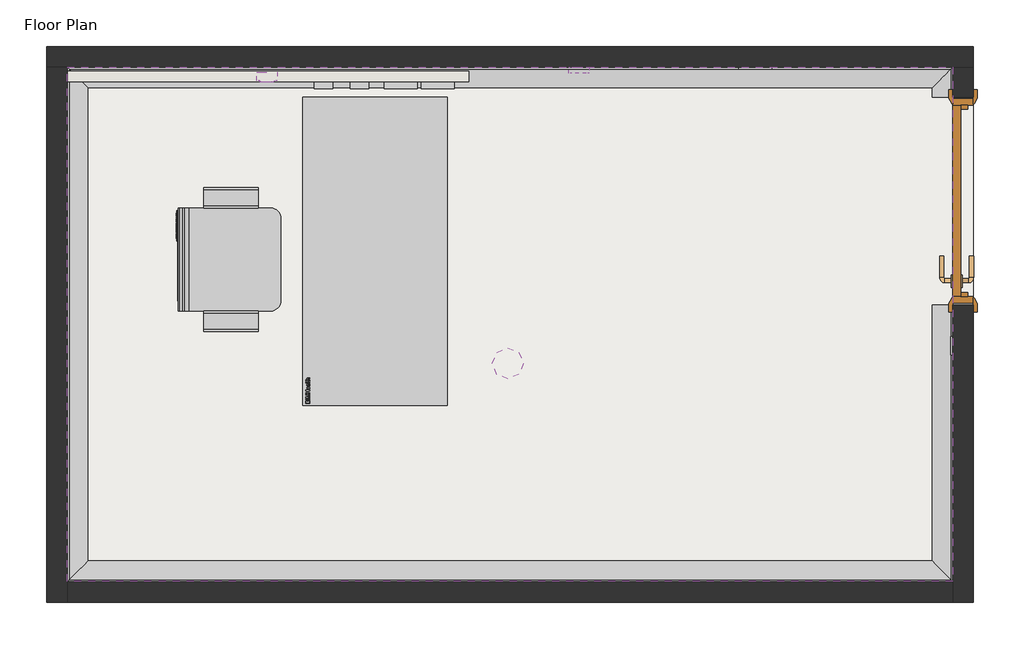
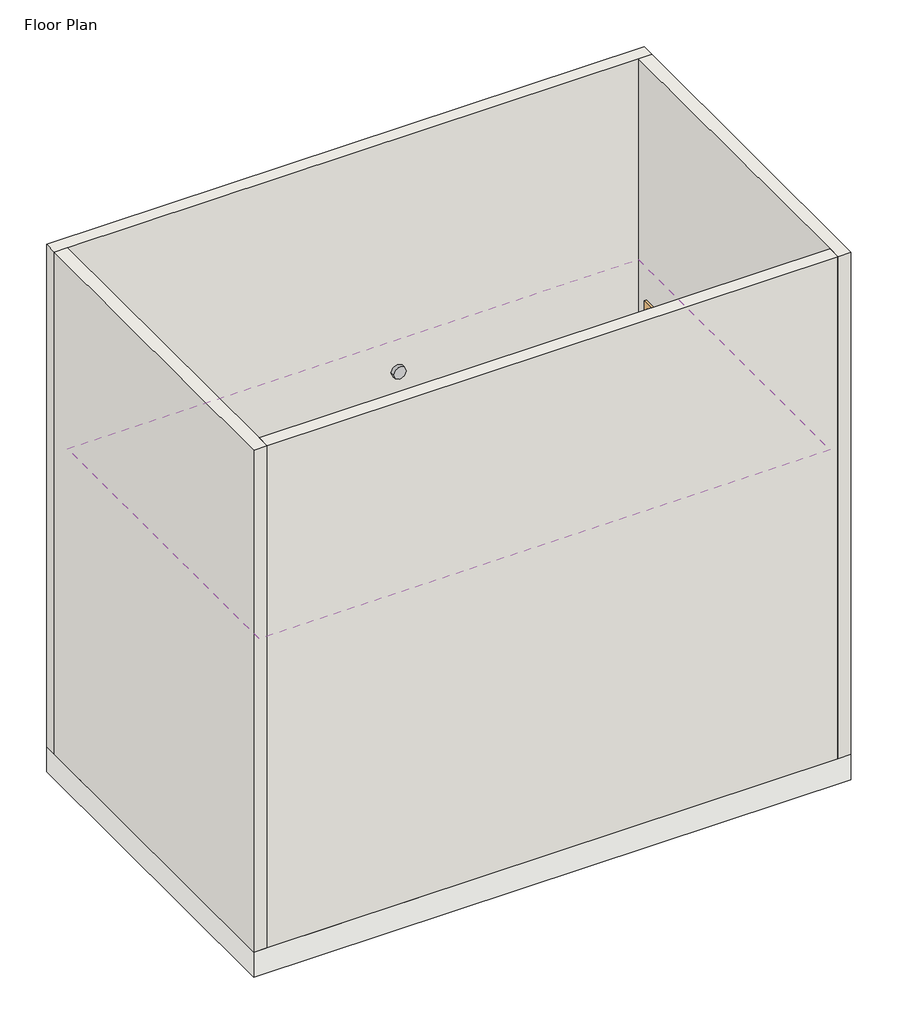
# One storey: 13 proxies, 5 walls, 2 furniture elements, 1 covering, 1 door, 1 slab.
"""IFC4 building model written with IfcOpenShell, lengths in millimetres."""

from ifc_helpers import new_model, si_unit, frame, origin, origin_with_axes, place, context, project, spatial, polyline, circle_curve, ellipse_curve, outline, extrude, faceted_brep, transform, mapped, element, save
from ifc_brep_helpers import plane_surface, revolved_surface, advanced_brep
from components import bimhealth_electrical_data_point_v1_type_1_559430e2, bimhealth_electrical_double_socket_v1_type_1_a33e6646, bimhealth_electrical_double_socket_v1_type_1_f9b83866, bimhealth_electrical_light_switch_v1_type_1_b5e59f8a, bimhealth_electrical_panic_alarm_v1_type_1_f5d69f13, bimhealth_electrical_smoke_detector_v1_bimhealth_electrical_fe9fcb6c, type_1_6de7a62d, door_1010x2110mm_f9eb5fde, furniture_fb8e9059, furniture_9261fd45

model = new_model("IFC4")

# Units and contexts
model_context = context("Model", 3, world=origin())
ifc_project = project(units=[si_unit("LENGTHUNIT", "METRE", prefix="MILLI")], contexts=[model_context])

# Site, building, storey
site = spatial("IfcSite", under=ifc_project)
building = spatial("IfcBuilding", under=site)
storey = spatial("IfcBuildingStorey", under=building, Name="Floor Plan", Elevation=0.0)

# Proxies
placement = place(None, origin())
element("IfcBuildingElementProxy", 1, Name="Wall Sweeps", at=placement, inside=storey, context=model_context, shape_type="AdvancedBrep", body=[
    advanced_brep(
    [(5.0, 695.0, 0.0), (105.0, 795.0, 0.0), (105.0, 795.0, 10.0), (15.0, 705.0, 100.0), (5.0, 695.0, 100.0), (5.0, 3195.0, 0.0), (5.0, 3195.0, 100.0), (15.0, 3185.0, 100.0), (105.0, 3095.0, 10.0), (105.0, 3095.0, 0.0)],
    [
        (0, 1),
        (1, 2),
        (2, 3, ellipse_curve(frame((105.0, 795.0, 100.0), z_axis=(-0.707106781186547, 0.707106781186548, 0.0), x_axis=(0.707106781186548, 0.7071067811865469, 0.0)), 127.2792206, 90.0)),
        (3, 4),
        (4, 0),
        (5, 6),
        (6, 7),
        (7, 8, ellipse_curve(frame((105.0, 3095.0, 100.0), z_axis=(-0.7071067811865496, -0.7071067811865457, 0.0), x_axis=(-0.7071067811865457, 0.7071067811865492, 0.0)), 127.2792206, 90.0)),
        (8, 9),
        (9, 5),
        (4, 6),
        (5, 0),
        (3, 7),
        (2, 8),
        (1, 9),
    ],
    [
        plane_surface(frame((5.0, 695.0, 304.8), z_axis=(0.707106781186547, -0.707106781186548, 0.0), x_axis=(0.707106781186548, 0.707106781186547, 0.0))),
        plane_surface(frame((5.0, 3195.0, 304.8), z_axis=(0.7071067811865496, 0.7071067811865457, 0.0), x_axis=(0.7071067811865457, -0.7071067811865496, 0.0))),
        plane_surface(frame((5.0, 695.0, 100.0), z_axis=(-1.0, 0.0, 0.0), x_axis=(0.0, 1.0, 0.0))),
        plane_surface(frame((15.0, 705.0, 100.0), z_axis=(0.0, 0.0, 1.0), x_axis=(0.0, 1.0, 0.0))),
        revolved_surface(polyline([(195.0, 3185.0, 100.0), (195.0, 705.0, 100.0)]), (105.0, 695.0, 100.0), (0.0, 1.0, 0.0)),
        plane_surface(frame((105.0, 795.0, 0.0), z_axis=(1.0, 0.0, 0.0), x_axis=(0.0, 1.0, 0.0))),
        plane_surface(frame((5.0, 695.0, 0.0), z_axis=(0.0, 0.0, -1.0), x_axis=(0.0, 1.0, 0.0))),
    ],
    [
        (0, [[1, 2, 3, 4, 5]]),
        (1, [[6, 7, 8, 9, 10]]),
        (2, [[-5, 11, -6, 12]]),
        (3, [[-4, 13, -7, -11]]),
        (4, [[-3, 14, -8, -13]]),
        (5, [[-2, 15, -9, -14]]),
        (6, [[-1, -12, -10, -15]]),
    ],
),
])
element("IfcBuildingElementProxy", 2, Name="Wall Sweeps", at=placement, inside=storey, context=model_context, shape_type="AdvancedBrep", body=[
    advanced_brep(
    [(5.0, 3195.0, 0.0), (105.0, 3095.0, 0.0), (105.0, 3095.0, 10.0), (15.0, 3185.0, 100.0), (5.0, 3195.0, 100.0), (4305.0, 3195.0, 0.0), (4305.0, 3195.0, 100.0), (4295.0, 3185.0, 100.0), (4205.0, 3095.0, 10.0), (4205.0, 3095.0, 0.0)],
    [
        (0, 1),
        (1, 2),
        (2, 3, ellipse_curve(frame((105.0, 3095.0, 100.0), z_axis=(0.7071067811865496, 0.7071067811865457, 0.0), x_axis=(0.7071067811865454, -0.7071067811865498, 0.0)), 127.2792206, 90.0)),
        (3, 4),
        (4, 0),
        (5, 6),
        (6, 7),
        (7, 8, ellipse_curve(frame((4205.0, 3095.0, 100.0), z_axis=(-0.7071067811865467, 0.7071067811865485, 0.0), x_axis=(0.7071067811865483, 0.7071067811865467, 0.0)), 127.2792206, 90.0)),
        (8, 9),
        (9, 5),
        (4, 6),
        (5, 0),
        (3, 7),
        (2, 8),
        (1, 9),
    ],
    [
        plane_surface(frame((5.0, 3195.0, 304.8), z_axis=(-0.7071067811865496, -0.7071067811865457, 0.0), x_axis=(0.7071067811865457, -0.7071067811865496, 0.0))),
        plane_surface(frame((4305.0, 3195.0, 304.8), z_axis=(0.7071067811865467, -0.7071067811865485, 0.0), x_axis=(-0.7071067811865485, -0.7071067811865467, 0.0))),
        plane_surface(frame((5.0, 3195.0, 100.0), z_axis=(0.0, 1.0, 0.0), x_axis=(1.0, 0.0, 0.0))),
        plane_surface(frame((15.0, 3185.0, 100.0), z_axis=(0.0, 0.0, 1.0), x_axis=(1.0, 0.0, 0.0))),
        revolved_surface(polyline([(4295.0, 3005.0, 100.0), (15.0, 3005.0, 100.0)]), (5.0, 3095.0, 100.0), (1.0, 0.0, 0.0)),
        plane_surface(frame((105.0, 3095.0, 0.0), z_axis=(0.0, -1.0, 0.0), x_axis=(1.0, 0.0, 0.0))),
        plane_surface(frame((5.0, 3195.0, 0.0), z_axis=(0.0, 0.0, -1.0), x_axis=(1.0, 0.0, 0.0))),
    ],
    [
        (0, [[1, 2, 3, 4, 5]]),
        (1, [[6, 7, 8, 9, 10]]),
        (2, [[-5, 11, -6, 12]]),
        (3, [[-4, 13, -7, -11]]),
        (4, [[-3, 14, -8, -13]]),
        (5, [[-2, 15, -9, -14]]),
        (6, [[-1, -12, -10, -15]]),
    ],
),
])
element("IfcBuildingElementProxy", 3, Name="Wall Sweeps", at=placement, inside=storey, context=model_context, shape_type="AdvancedBrep", body=[
    advanced_brep(
    [(4305.0, 2040.0, 0.0), (4205.0, 2040.0, 0.0), (4205.0, 2040.0, 10.0), (4295.0, 2040.0, 100.0), (4305.0, 2040.0, 100.0), (4305.0, 695.0, 0.0), (4305.0, 695.0, 100.0), (4295.0, 705.0, 100.0), (4205.0, 795.0, 10.0), (4205.0, 795.0, 0.0)],
    [
        (0, 1),
        (1, 2),
        (2, 3, circle_curve(frame((4205.0, 2040.0, 100.0), z_axis=(0.0, -1.0, 0.0), x_axis=(-1.0, 0.0, 0.0)), 90.0)),
        (3, 4),
        (4, 0),
        (5, 6),
        (6, 7),
        (7, 8, ellipse_curve(frame((4205.0, 795.0, 100.0), z_axis=(0.7071067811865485, 0.7071067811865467, 0.0), x_axis=(0.7071067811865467, -0.7071067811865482, 0.0)), 127.2792206, 90.0)),
        (8, 9),
        (9, 5),
        (4, 6),
        (5, 0),
        (3, 7),
        (2, 8),
        (1, 9),
    ],
    [
        plane_surface(frame((4204.5012438, 2040.0, 0.0), z_axis=(0.0, 1.0, 0.0), x_axis=(0.0, 0.0, -1.0))),
        plane_surface(frame((4305.0, 695.0, 304.8), z_axis=(-0.7071067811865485, -0.7071067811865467, 0.0), x_axis=(-0.7071067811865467, 0.7071067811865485, 0.0))),
        plane_surface(frame((4305.0, 2040.0, 100.0), z_axis=(1.0, 0.0, 0.0), x_axis=(0.0, -1.0, 0.0))),
        plane_surface(frame((4295.0, 2040.0, 100.0), z_axis=(0.0, 0.0, 1.0), x_axis=(0.0, -1.0, 0.0))),
        revolved_surface(polyline([(4115.0, 705.0, 100.0), (4115.0, 2040.0, 100.0)]), (4205.0, 2040.0, 100.0), (0.0, -1.0, 0.0)),
        plane_surface(frame((4205.0, 2040.0, 0.0), z_axis=(-1.0, 0.0, 0.0), x_axis=(0.0, -1.0, 0.0))),
        plane_surface(frame((4305.0, 2040.0, 0.0), z_axis=(0.0, 0.0, -1.0), x_axis=(0.0, -1.0, 0.0))),
    ],
    [
        (0, [[1, 2, 3, 4, 5]]),
        (1, [[6, 7, 8, 9, 10]]),
        (2, [[-5, 11, -6, 12]]),
        (3, [[-4, 13, -7, -11]]),
        (4, [[-3, 14, -8, -13]]),
        (5, [[-2, 15, -9, -14]]),
        (6, [[-1, -12, -10, -15]]),
    ],
),
    advanced_brep(
    [(4305.0, 3195.0, 0.0), (4205.0, 3095.0, 0.0), (4205.0, 3095.0, 10.0), (4295.0, 3185.0, 100.0), (4305.0, 3195.0, 100.0), (4305.0, 3050.0, 0.0), (4305.0, 3050.0, 100.0), (4295.0, 3050.0, 100.0), (4205.0, 3050.0, 10.0), (4205.0, 3050.0, 0.0)],
    [
        (0, 1),
        (1, 2),
        (2, 3, ellipse_curve(frame((4205.0, 3095.0, 100.0), z_axis=(0.7071067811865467, -0.7071067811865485, 0.0), x_axis=(-0.7071067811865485, -0.7071067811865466, 0.0)), 127.2792206, 90.0)),
        (3, 4),
        (4, 0),
        (5, 6),
        (6, 7),
        (7, 8, circle_curve(frame((4205.0, 3050.0, 100.0), z_axis=(0.0, 1.0, 0.0), x_axis=(-1.0, 0.0, 0.0)), 90.0)),
        (8, 9),
        (9, 5),
        (4, 6),
        (5, 0),
        (3, 7),
        (2, 8),
        (1, 9),
    ],
    [
        plane_surface(frame((4305.0, 3195.0, 304.8), z_axis=(-0.7071067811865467, 0.7071067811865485, 0.0), x_axis=(-0.7071067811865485, -0.7071067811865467, 0.0))),
        plane_surface(frame((4204.5012438, 3050.0, 0.0), z_axis=(0.0, -1.0, 0.0), x_axis=(0.0, 0.0, -1.0))),
        plane_surface(frame((4305.0, 3195.0, 100.0), z_axis=(1.0, 0.0, 0.0), x_axis=(0.0, -1.0, 0.0))),
        plane_surface(frame((4295.0, 3185.0, 100.0), z_axis=(0.0, 0.0, 1.0), x_axis=(0.0, -1.0, 0.0))),
        revolved_surface(polyline([(4115.0, 3005.0000000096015, 100.0), (4115.0, 3185.0, 100.0)]), (4205.0, 3195.0, 100.0), (0.0, -1.0, 0.0)),
        plane_surface(frame((4205.0, 3095.0, 0.0), z_axis=(-1.0, 0.0, 0.0), x_axis=(0.0, -1.0, 0.0))),
        plane_surface(frame((4305.0, 3195.0, 0.0), z_axis=(0.0, 0.0, -1.0), x_axis=(0.0, -1.0, 0.0))),
    ],
    [
        (0, [[1, 2, 3, 4, 5]]),
        (1, [[6, 7, 8, 9, 10]]),
        (2, [[-5, 11, -6, 12]]),
        (3, [[-4, 13, -7, -11]]),
        (4, [[-3, 14, -8, -13]]),
        (5, [[-2, 15, -9, -14]]),
        (6, [[-1, -12, -10, -15]]),
    ],
),
])
element("IfcBuildingElementProxy", 4, Name="Wall Sweeps", at=placement, inside=storey, context=model_context, shape_type="AdvancedBrep", body=[
    advanced_brep(
    [(4305.0, 695.0, 0.0), (4205.0, 795.0, 0.0), (4205.0, 795.0, 10.0), (4295.0, 705.0, 100.0), (4305.0, 695.0, 100.0), (5.0, 695.0, 0.0), (5.0, 695.0, 100.0), (15.0, 705.0, 100.0), (105.0, 795.0, 10.0), (105.0, 795.0, 0.0)],
    [
        (0, 1),
        (1, 2),
        (2, 3, ellipse_curve(frame((4205.0, 795.0, 100.0), z_axis=(-0.7071067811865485, -0.7071067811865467, 0.0), x_axis=(-0.7071067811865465, 0.7071067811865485, 0.0)), 127.2792206, 90.0)),
        (3, 4),
        (4, 0),
        (5, 6),
        (6, 7),
        (7, 8, ellipse_curve(frame((105.0, 795.0, 100.0), z_axis=(0.707106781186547, -0.707106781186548, 0.0), x_axis=(-0.7071067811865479, -0.707106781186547, 0.0)), 127.2792206, 90.0)),
        (8, 9),
        (9, 5),
        (4, 6),
        (5, 0),
        (3, 7),
        (2, 8),
        (1, 9),
    ],
    [
        plane_surface(frame((4305.0, 695.0, 304.8), z_axis=(0.7071067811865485, 0.7071067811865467, 0.0), x_axis=(-0.7071067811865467, 0.7071067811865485, 0.0))),
        plane_surface(frame((5.0, 695.0, 304.8), z_axis=(-0.707106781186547, 0.707106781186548, 0.0), x_axis=(0.707106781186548, 0.707106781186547, 0.0))),
        plane_surface(frame((4305.0, 695.0, 100.0), z_axis=(0.0, -1.0, 0.0), x_axis=(-1.0, 0.0, 0.0))),
        plane_surface(frame((4295.0, 705.0, 100.0), z_axis=(0.0, 0.0, 1.0), x_axis=(-1.0, 0.0, 0.0))),
        revolved_surface(polyline([(15.0, 885.0, 100.0), (4295.0, 885.0, 100.0)]), (4305.0, 795.0, 100.0), (-1.0, 0.0, 0.0)),
        plane_surface(frame((4205.0, 795.0, 0.0), z_axis=(0.0, 1.0, 0.0), x_axis=(-1.0, 0.0, 0.0))),
        plane_surface(frame((4305.0, 695.0, 0.0), z_axis=(0.0, 0.0, -1.0), x_axis=(-1.0, 0.0, 0.0))),
    ],
    [
        (0, [[1, 2, 3, 4, 5]]),
        (1, [[6, 7, 8, 9, 10]]),
        (2, [[-5, 11, -6, 12]]),
        (3, [[-4, 13, -7, -11]]),
        (4, [[-3, 14, -8, -13]]),
        (5, [[-2, 15, -9, -14]]),
        (6, [[-1, -12, -10, -15]]),
    ],
),
])
bimhealth_electrical_data_point_v1_type_1_shape = bimhealth_electrical_data_point_v1_type_1_559430e2(model_context)
element("IfcBuildingElementProxy", 5, Name="BIMHealth-Electrical-Data_Point-v1 : Type 1", ObjectType="BIMHealth-Electrical-Data_Point-v1 : Type 1", at=placement, inside=storey, context=model_context, shape_type="MappedRepresentation", body=[
    mapped(bimhealth_electrical_data_point_v1_type_1_shape, transform((1420.0, 3150.0, -15.0), x_axis=(-1.0, 0.0, 0.0), y_axis=(0.0, -1.0, 0.0), z_axis=(0.0, 0.0, 1.0))),
])
bimhealth_electrical_double_socket_v1_type_1_shape = bimhealth_electrical_double_socket_v1_type_1_a33e6646(model_context)
element("IfcBuildingElementProxy", 6, Name="BIMHealth-Electrical-Double_Socket-v1 : Type 1", ObjectType="BIMHealth-Electrical-Double_Socket-v1 : Type 1", at=placement, inside=storey, context=model_context, shape_type="MappedRepresentation", body=[
    mapped(bimhealth_electrical_double_socket_v1_type_1_shape, transform((2010.0, 3150.0, 285.0), x_axis=(-1.0, 0.0, 0.0), y_axis=(0.0, -1.0, 0.0), z_axis=(0.0, 0.0, 1.0))),
])
element("IfcBuildingElementProxy", 7, Name="BIMHealth-Electrical-Double_Socket-v1 : Type 1", ObjectType="BIMHealth-Electrical-Double_Socket-v1 : Type 1", at=placement, inside=storey, context=model_context, shape_type="MappedRepresentation", body=[
    mapped(bimhealth_electrical_double_socket_v1_type_1_shape, transform((1830.0, 3150.0, 285.0), x_axis=(-1.0, 0.0, 0.0), y_axis=(0.0, -1.0, 0.0), z_axis=(0.0, 0.0, 1.0))),
])
bimhealth_electrical_double_socket_v1_type_1_2_shape = bimhealth_electrical_double_socket_v1_type_1_f9b83866(model_context)
element("IfcBuildingElementProxy", 8, Name="BIMHealth-Electrical-Double_Socket-v1 : Type 1", ObjectType="BIMHealth-Electrical-Double_Socket-v1 : Type 1", at=placement, inside=storey, context=model_context, shape_type="MappedRepresentation", body=[
    mapped(bimhealth_electrical_double_socket_v1_type_1_2_shape, transform((3550.0, 3245.0, 0.0), x_axis=(-1.0, 0.0, 0.0), y_axis=(0.0, -1.0, 0.0), z_axis=(0.0, 0.0, 1.0))),
])
bimhealth_electrical_light_switch_v1_type_1_shape = bimhealth_electrical_light_switch_v1_type_1_b5e59f8a(model_context)
element("IfcBuildingElementProxy", 9, Name="BIMHealth-Electrical-Light_Switch-v1 : Type 1", ObjectType="BIMHealth-Electrical-Light_Switch-v1 : Type 1", at=placement, inside=storey, context=model_context, shape_type="MappedRepresentation", body=[
    mapped(bimhealth_electrical_light_switch_v1_type_1_shape, transform((4355.0, 1670.0, -60.0), x_axis=(0.0, 1.0, 0.0), y_axis=(-1.0, 0.0, 0.0), z_axis=(0.0, 0.0, 1.0))),
])
bimhealth_electrical_panic_alarm_v1_type_1_shape = bimhealth_electrical_panic_alarm_v1_type_1_f5d69f13(model_context)
element("IfcBuildingElementProxy", 10, Name="BIMHealth-Electrical-Panic_Alarm-v1 : Type 1", ObjectType="BIMHealth-Electrical-Panic_Alarm-v1 : Type 1", at=placement, inside=storey, context=model_context, shape_type="MappedRepresentation", body=[
    mapped(bimhealth_electrical_panic_alarm_v1_type_1_shape, transform((1150.0, 3245.0, 0.0), x_axis=(-1.0, 0.0, 0.0), y_axis=(0.0, -1.0, 0.0), z_axis=(0.0, 0.0, 1.0))),
])
bimhealth_electrical_smoke_detector_v1_bimhealth_electrical_shape = bimhealth_electrical_smoke_detector_v1_bimhealth_electrical_fe9fcb6c(model_context)
element("IfcBuildingElementProxy", 11, Name="BIMHealth-Electrical-Smoke_Detector-v1 : BIMHealth-Electrical-Smoke_Detector-v1", ObjectType="BIMHealth-Electrical-Smoke_Detector-v1 : BIMHealth-Electrical-Smoke_Detector-v1", at=placement, inside=storey, context=model_context, shape_type="MappedRepresentation", body=[
    mapped(bimhealth_electrical_smoke_detector_v1_bimhealth_electrical_shape, transform((2145.0, 1755.0, -38.4), x_axis=(1.0, 0.0, 0.0), y_axis=(0.0, 1.0, 0.0), z_axis=(0.0, 0.0, 1.0))),
])
element("IfcBuildingElementProxy", 12, Name="BIMHealth-Electrical-Telephone_Point-v1 : Type 1", ObjectType="BIMHealth-Electrical-Telephone_Point-v1 : Type 1", at=placement, inside=storey, context=model_context, shape_type="MappedRepresentation", body=[
    mapped(bimhealth_electrical_data_point_v1_type_1_shape, transform((1595.0, 3150.0, -15.0), x_axis=(-1.0, 0.0, 0.0), y_axis=(0.0, -1.0, 0.0), z_axis=(0.0, 0.0, 1.0))),
])
type_1_shape = type_1_6de7a62d(model_context)
element("IfcBuildingElementProxy", 13, Name="BIMHealth-Electrical-Alarm_Sounder-v1 : Type 1", ObjectType="BIMHealth-Electrical-Alarm_Sounder-v1 : Type 1", at=placement, inside=storey, context=model_context, shape_type="MappedRepresentation", body=[
    mapped(type_1_shape, transform((2665.0, 3245.0, 0.0), x_axis=(-1.0, 0.0, 0.0), y_axis=(0.0, -1.0, 0.0), z_axis=(0.0, 0.0, 1.0))),
])

# Covering
element("IfcCovering", 14, ObjectType="BIMHealth - Generic Ceiling", at=placement, inside=storey, context=model_context, shape_type="SweptSolid", body=[
    extrude(outline(polyline([(4305.0, 3195.0), (4305.0, 695.0), (5.0, 695.0), (5.0, 3195.0), (4305.0, 3195.0)])), frame((0.0, 0.0, 2400.0), z_axis=(0.0, 0.0, 1.0), x_axis=(1.0, 0.0, 0.0)), (0.0, 0.0, 1.0), 52.0),
])

# Door
door_1010x2110mm_shape = door_1010x2110mm_f9eb5fde(model_context)
element("IfcDoor", 15, ObjectType="BIMHealth-Single_Door-LOD2A-v1 : 1010x2110mm", at=placement, inside=storey, context=model_context, shape_type="MappedRepresentation", body=[
    mapped(door_1010x2110mm_shape, transform((4355.0, 2545.0, 0.0), x_axis=(0.0, 1.0, 0.0), y_axis=(-1.0, 0.0, 0.0), z_axis=(0.0, 0.0, 1.0))),
])

# Furniture
furniture_shape = furniture_fb8e9059(model_context)
element("IfcFurniture", 16, ObjectType="BIMHealth-Chair_Consultant-LOD2A-v1 : BIMHealth-Chair_Consultant-LOD2A-v1", at=placement, inside=storey, context=model_context, shape_type="MappedRepresentation", body=[
    mapped(furniture_shape, transform((542.7673619, 2010.0, 0.0), x_axis=(0.0, 1.0, 0.0), y_axis=(-1.0, 0.0, 0.0), z_axis=(0.0, 0.0, 1.0))),
])
furniture_2_shape = furniture_9261fd45(model_context)
element("IfcFurniture", 17, ObjectType="BIMHealth-Desk_Consultant-LOD2A-v1 : BIMHealth-Desk_Consultant-LOD2A-v1", at=placement, inside=storey, context=model_context, shape_type="MappedRepresentation", body=[
    mapped(furniture_2_shape, transform((1150.0, 1550.0, 0.0), x_axis=(0.0, 1.0, 0.0), y_axis=(-1.0, 0.0, 0.0), z_axis=(0.0, 0.0, 1.0))),
])

# Slab
element("IfcSlab", 18, ObjectType="BIMHealth - Generic Floor", at=placement, inside=storey, context=model_context, shape_type="SweptSolid", body=[
    extrude(outline(polyline([(4405.0, 3295.0), (4405.0, 595.0), (-95.0, 595.0), (-95.0, 3295.0), (4405.0, 3295.0)])), frame((0.0, 0.0, -200.0), z_axis=(0.0, 0.0, 1.0), x_axis=(1.0, 0.0, 0.0)), (0.0, 0.0, 1.0), 200.0),
])

# Walls
element("IfcWall", 19, ObjectType="BIMHealth - Generic Wall - Trunking", at=placement, inside=storey, context=model_context, shape_type="SweptSolid", body=[
    extrude(outline(polyline([(1955.0, 3125.0), (5.0, 3125.0), (5.0, 3175.0), (1955.0, 3175.0), (1955.0, 3125.0)])), frame((0.0, 0.0, 700.0), z_axis=(0.0, 0.0, 1.0), x_axis=(1.0, 0.0, 0.0)), (0.0, 0.0, 1.0), 150.0),
])
element("IfcWall", 20, ObjectType="BIMHealth - Generic Wall", at=placement, inside=storey, context=model_context, shape_type="Brep", body=[
    faceted_brep([(5.0, 595.0, 0.0), (5.0, 695.0, 0.0), (5.0, 3195.0, 0.0), (5.0, 3195.0, 4000.0), (5.0, 695.0, 4000.0), (5.0, 595.0, 4000.0), (-95.0, 595.0, 0.0), (-95.0, 595.0, 4000.0), (-95.0, 3195.0, 4000.0), (-95.0, 3195.0, 0.0)], [[[0, 1, 2, 3, 4, 5]], [[6, 7, 8, 9]], [[2, 1, 0, 6, 9]], [[5, 4, 3, 8, 7]], [[0, 5, 7, 6]], [[3, 2, 9, 8]]]),
])
element("IfcWall", 21, ObjectType="BIMHealth - Generic Wall", at=placement, inside=storey, context=model_context, shape_type="Brep", body=[
    faceted_brep([(-95.0, 3195.0, 0.0), (5.0, 3195.0, 0.0), (4305.0, 3195.0, 0.0), (4405.0, 3195.0, 0.0), (4405.0, 3195.0, 4000.0), (4305.0, 3195.0, 4000.0), (5.0, 3195.0, 4000.0), (-95.0, 3195.0, 4000.0), (-95.0, 3295.0, 0.0), (-95.0, 3295.0, 4000.0), (4405.0, 3295.0, 4000.0), (4405.0, 3295.0, 0.0)], [[[0, 1, 2, 3, 4, 5, 6, 7]], [[8, 9, 10, 11]], [[3, 2, 1, 0, 8, 11]], [[7, 6, 5, 4, 10, 9]], [[4, 3, 11, 10]], [[0, 7, 9, 8]]]),
])
element("IfcWall", 22, ObjectType="BIMHealth - Generic Wall", at=placement, inside=storey, context=model_context, shape_type="Brep", body=[
    faceted_brep([(4305.0, 595.0, 4000.0), (4305.0, 695.0, 4000.0), (4305.0, 3195.0, 4000.0), (4305.0, 3195.0, 0.0), (4305.0, 3050.0, 0.0), (4305.0, 3050.0, 100.0), (4305.0, 3050.0, 2110.0), (4305.0, 2040.0, 2110.0), (4305.0, 2040.0, 100.0), (4305.0, 2040.0, 0.0), (4305.0, 695.0, 0.0), (4305.0, 595.0, 0.0), (4405.0, 3195.0, 4000.0), (4405.0, 595.0, 4000.0), (4405.0, 595.0, 0.0), (4405.0, 2040.0, 0.0), (4405.0, 2040.0, 2110.0), (4405.0, 3050.0, 2110.0), (4405.0, 3050.0, 0.0), (4405.0, 3195.0, 0.0)], [[[0, 1, 2, 3, 4, 5, 6, 7, 8, 9, 10, 11]], [[12, 13, 14, 15, 16, 17, 18, 19]], [[3, 19, 18, 4]], [[14, 11, 10, 9, 15]], [[2, 1, 0, 13, 12]], [[3, 2, 12, 19]], [[0, 11, 14, 13]], [[17, 6, 5, 4, 18]], [[6, 17, 16, 7]], [[7, 16, 15, 9, 8]]]),
])
element("IfcWall", 23, ObjectType="BIMHealth - Generic Wall", at=placement, inside=storey, context=model_context, shape_type="SweptSolid", body=[
    extrude(outline(polyline([(5.0, 695.0), (4305.0, 695.0), (4305.0, 595.0), (5.0, 595.0), (5.0, 695.0)])), origin_with_axes(), (0.0, 0.0, 1.0), 4000.0),
])

save(model, "model.ifc")
